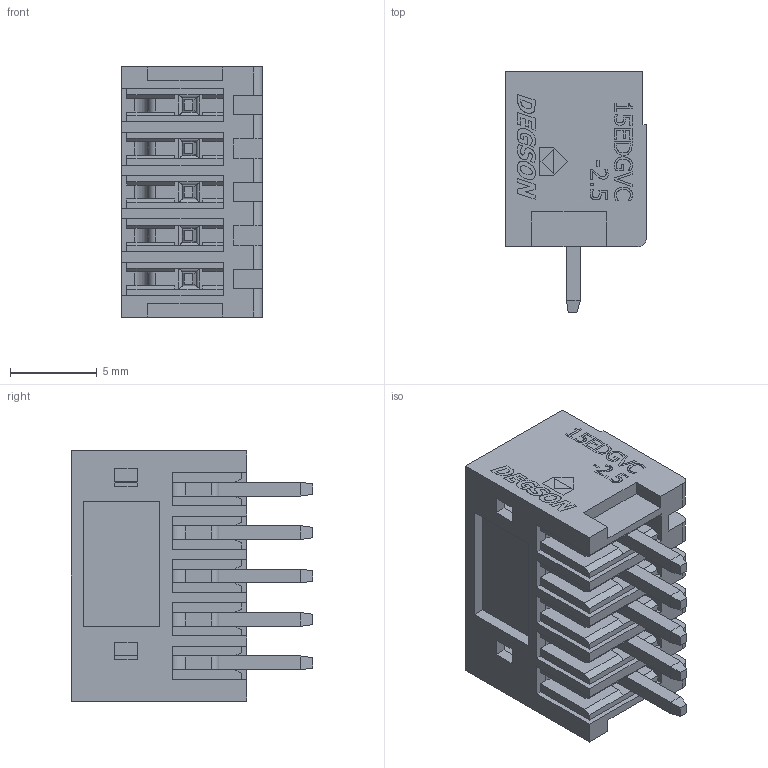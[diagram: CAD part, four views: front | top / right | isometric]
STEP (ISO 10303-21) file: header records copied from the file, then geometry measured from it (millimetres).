
FILE_DESCRIPTION (( 'STEP AP214' ), '1' );
FILE_NAME ('User Library-15EDGVC-2.5-05P-1Y-00A (H).STEP', '2019-10-24T10:00:32', ( '' ), ( '' ), 'SwSTEP 2.0', 'SolidWorks 2019', '' );
FILE_SCHEMA (( 'AUTOMOTIVE_DESIGN' ));
Length unit declared in the file: millimetre
Products named in the file (1): User Library-15EDGVC-2.5-05P-1Y-00A (H)
Bounding box: 8.1 x 13.9 x 14.4 mm (x, y, z)
Volume: 632.4 mm3; surface area: 1579.6 mm2
Topology: 6 solids, 6 shells, 900 faces, 2378 edges, 1523 vertices
Faces by surface type: plane 695, bspline 135, cylinder 60, cone 10
Entity records: 32744 total; most frequent: CARTESIAN_POINT 6906, ORIENTED_EDGE 4756, DIRECTION 3759, EDGE_CURVE 2378, LINE 1927, VECTOR 1927, VERTEX_POINT 1523, EDGE_LOOP 947
